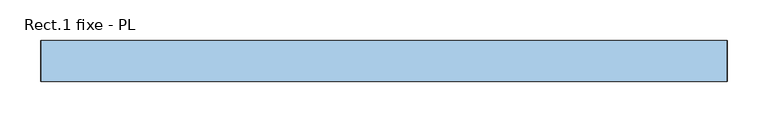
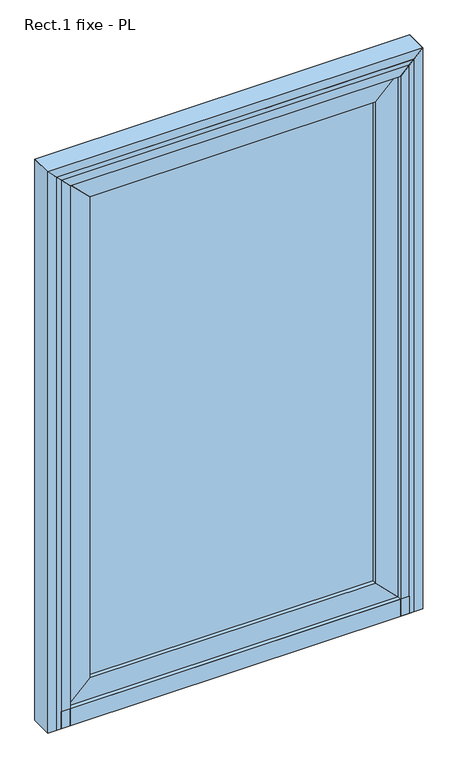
"""IFC4 building model written with IfcOpenShell, lengths in millimetres: window geometry, Rect.1 fixe - PL : 78*117."""

from ifc_helpers import new_model, si_unit, frame, origin, origin_with_axes, place, context, project, spatial, polyline, outline, extrude, source, transform, mapped, element, save


def rect_1_fixe_pl_e053eafa(model_context):
    return source(origin(), model_context, "Body", "SweptSolid", [
        extrude(outline(polyline([(321.15, -10.0), (321.15, -30.0), (-321.15, -30.0), (-321.15, -10.0), (321.15, -10.0)])), frame((0.0, 0.0, 90.0), z_axis=(0.0, 0.0, 1.0), x_axis=(1.0, 0.0, 0.0)), (0.0, 0.0, 1.0), 1142.5),
        extrude(outline(polyline([(40.0, -371.15), (90.0, -321.15), (1232.5, -321.15), (1282.5, -371.15), (40.0, -371.15)])), frame((0.0, -40.0, 0.0), z_axis=(0.0, 1.0, 0.0), x_axis=(0.0, 0.0, 1.0)), (0.0, 0.0, 1.0), 40.0),
        extrude(outline(polyline([(90.0, 321.15), (40.0, 371.15), (1282.5, 371.15), (1232.5, 321.15), (90.0, 321.15)])), frame((0.0, -40.0, 0.0), z_axis=(0.0, 1.0, 0.0), x_axis=(0.0, 0.0, 1.0)), (0.0, 0.0, 1.0), 40.0),
        extrude(outline(polyline([(1282.5, 371.15), (1282.5, -371.15), (1232.5, -321.15), (1232.5, 321.15), (1282.5, 371.15)])), frame((0.0, -40.0, 0.0), z_axis=(0.0, 1.0, 0.0), x_axis=(0.0, 0.0, 1.0)), (0.0, 0.0, 1.0), 40.0),
        extrude(outline(polyline([(40.0, 371.15), (90.0, 321.15), (90.0, -321.15), (40.0, -371.15), (40.0, 371.15)])), frame((0.0, -40.0, 0.0), z_axis=(0.0, 1.0, 0.0), x_axis=(0.0, 0.0, 1.0)), (0.0, 0.0, 1.0), 40.0),
        extrude(outline(polyline([(371.15, -50.0), (-371.15, -50.0), (-371.15, 0.0), (371.15, 0.0), (371.15, -50.0)])), origin_with_axes(), (0.0, 0.0, 1.0), 40.0),
        extrude(outline(polyline([(-20.0, 30.0), (-20.0, 0.0), (-50.0, 0.0), (-50.0, 40.0), (-20.0, 30.0)])), frame((-391.15, 0.0, 0.0), z_axis=(1.0, 0.0, 0.0), x_axis=(0.0, 1.0, 0.0)), (0.0, 0.0, 1.0), 782.3),
        extrude(outline(polyline([(1312.5, -401.15), (0.0, -401.15), (0.0, -391.15), (1302.5, -391.15), (1312.5, -401.15)])), frame((0.0, -50.0, 0.0), z_axis=(0.0, 1.0, 0.0), x_axis=(0.0, 0.0, 1.0)), (0.0, 0.0, 1.0), 40.0),
        extrude(outline(polyline([(1312.5, 401.15), (1302.5, 391.15), (0.0, 391.15), (0.0, 401.15), (1312.5, 401.15)])), frame((0.0, -50.0, 0.0), z_axis=(0.0, 1.0, 0.0), x_axis=(0.0, 0.0, 1.0)), (0.0, 0.0, 1.0), 40.0),
        extrude(outline(polyline([(0.0, -421.15), (0.0, -371.15), (1282.5, -371.15), (1332.5, -421.15), (0.0, -421.15)])), frame((0.0, -50.0, 0.0), z_axis=(0.0, 1.0, 0.0), x_axis=(0.0, 0.0, 1.0)), (0.0, 0.0, 1.0), 50.0),
        extrude(outline(polyline([(0.0, 421.15), (1332.5, 421.15), (1282.5, 371.15), (0.0, 371.15), (0.0, 421.15)])), frame((0.0, -50.0, 0.0), z_axis=(0.0, 1.0, 0.0), x_axis=(0.0, 0.0, 1.0)), (0.0, 0.0, 1.0), 50.0),
        extrude(outline(polyline([(1312.5, -401.15), (1302.5, -391.15), (1302.5, 391.15), (1312.5, 401.15), (1312.5, -401.15)])), frame((0.0, -50.0, 0.0), z_axis=(0.0, 1.0, 0.0), x_axis=(0.0, 0.0, 1.0)), (0.0, 0.0, 1.0), 40.0),
        extrude(outline(polyline([(1332.5, 421.15), (1332.5, -421.15), (1282.5, -371.15), (1282.5, 371.15), (1332.5, 421.15)])), frame((0.0, -50.0, 0.0), z_axis=(0.0, 1.0, 0.0), x_axis=(0.0, 0.0, 1.0)), (0.0, 0.0, 1.0), 50.0),
    ])


if __name__ == "__main__":
    model = new_model("IFC4")
    model_context = context("Model", 3, world=origin())
    ifc_project = project(units=[si_unit("LENGTHUNIT", "METRE", prefix="MILLI")], contexts=[model_context])
    site = spatial("IfcSite", under=ifc_project)
    building = spatial("IfcBuilding", under=site)
    placement = place(None, origin())
    rect_1_fixe_pl_shape = rect_1_fixe_pl_e053eafa(model_context)
    element("IfcWindow", 1, ObjectType="Rect.1 fixe - PL : 78*117", at=placement, inside=building, context=model_context, shape_type="MappedRepresentation", body=[
        mapped(rect_1_fixe_pl_shape, transform((0.0, 0.0, 0.0), x_axis=(1.0, 0.0, 0.0), y_axis=(0.0, 1.0, 0.0), z_axis=(0.0, 0.0, 1.0))),
    ])
    save(model, "model.ifc")
